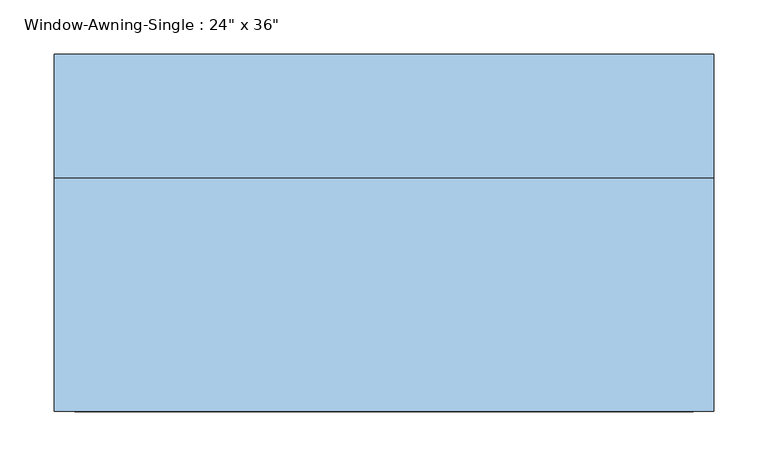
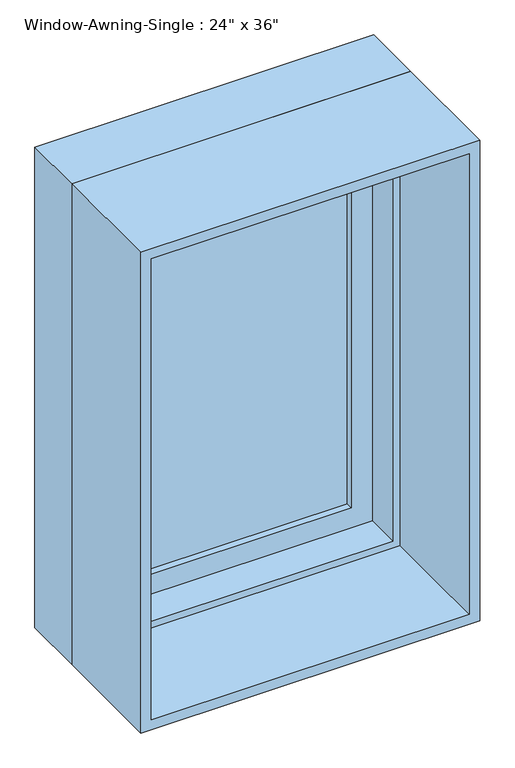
"""IFC4 building model written with IfcOpenShell, lengths in millimetres: window geometry."""

from ifc_helpers import new_model, si_unit, frame, origin, place, context, project, spatial, polyline, outline, extrude, faceted_brep, source, transform, mapped, element, save


def window_2fd3c40a(model_context):
    return source(origin(), model_context, "Body", "SolidModel", [
        faceted_brep([(292.1, 123.825, 927.1), (292.1, 174.625, 927.1), (-292.1, 174.625, 927.1), (-292.1, 123.825, 927.1), (273.05, 60.325, 946.15), (273.05, 123.825, 946.15), (-273.05, 123.825, 946.15), (-273.05, 60.325, 946.15), (304.8, 174.625, 914.4), (304.8, 60.325, 914.4), (-304.8, 60.325, 914.4), (-304.8, 174.625, 914.4), (-292.1, 174.625, 1816.1), (-292.1, 123.825, 1816.1), (-273.05, 123.825, 1797.05), (-273.05, 60.325, 1797.05), (-304.8, 60.325, 1828.8), (-304.8, 174.625, 1828.8), (292.1, 174.625, 1816.1), (292.1, 123.825, 1816.1), (273.05, 123.825, 1797.05), (273.05, 60.325, 1797.05), (304.8, 60.325, 1828.8), (304.8, 174.625, 1828.8)], [[[0, 1, 2, 3]], [[4, 5, 6, 7]], [[8, 9, 10, 11]], [[3, 2, 12, 13]], [[7, 6, 14, 15]], [[11, 10, 16, 17]], [[13, 12, 18, 19]], [[15, 14, 20, 21]], [[17, 16, 22, 23]], [[11, 17, 23, 8], [1, 18, 12, 2]], [[19, 18, 1, 0]], [[3, 13, 19, 0], [5, 20, 14, 6]], [[21, 20, 5, 4]], [[9, 22, 16, 10], [7, 15, 21, 4]], [[23, 22, 9, 8]]]),
        extrude(outline(polyline([(234.95, 155.575), (234.95, 149.225), (-234.95, 149.225), (-234.95, 155.575), (234.95, 155.575)])), frame((0.0, 0.0, 984.25), z_axis=(0.0, 0.0, 1.0), x_axis=(1.0, 0.0, 0.0)), (0.0, 0.0, 1.0), 774.7),
        extrude(outline(polyline([(234.95, 142.875), (234.95, 136.525), (-234.95, 136.525), (-234.95, 142.875), (234.95, 142.875)])), frame((0.0, 0.0, 984.25), z_axis=(0.0, 0.0, 1.0), x_axis=(1.0, 0.0, 0.0)), (0.0, 0.0, 1.0), 774.7),
        extrude(outline(polyline([(927.1, -292.1), (927.1, 292.1), (1816.1, 292.1), (1816.1, -292.1), (927.1, -292.1)]), holes=[polyline([(1758.95, -234.95), (1758.95, 234.95), (984.25, 234.95), (984.25, -234.95), (1758.95, -234.95)])]), frame((0.0, 123.825, 0.0), z_axis=(0.0, 1.0, 0.0), x_axis=(0.0, 0.0, 1.0)), (0.0, 0.0, 1.0), 44.45),
        extrude(outline(polyline([(1828.8, -304.8), (914.4, -304.8), (914.4, 304.8), (1828.8, 304.8), (1828.8, -304.8)]), holes=[polyline([(1809.75, -285.75), (1809.75, 285.75), (933.45, 285.75), (933.45, -285.75), (1809.75, -285.75)])]), frame((0.0, -155.575, 0.0), z_axis=(0.0, 1.0, 0.0), x_axis=(0.0, 0.0, 1.0)), (0.0, 0.0, 1.0), 215.9),
    ])


if __name__ == "__main__":
    model = new_model("IFC4")
    model_context = context("Model", 3, world=origin())
    ifc_project = project(units=[si_unit("LENGTHUNIT", "METRE", prefix="MILLI")], contexts=[model_context])
    site = spatial("IfcSite", under=ifc_project)
    building = spatial("IfcBuilding", under=site)
    placement = place(None, origin())
    window_shape = window_2fd3c40a(model_context)
    element("IfcWindow", 1, ObjectType="Window-Awning-Single : 24\" x 36\"", at=placement, inside=building, context=model_context, shape_type="MappedRepresentation", body=[
        mapped(window_shape, transform((0.0, 0.0, 0.0), x_axis=(1.0, 0.0, 0.0), y_axis=(0.0, 1.0, 0.0), z_axis=(0.0, 0.0, 1.0))),
    ])
    save(model, "model.ifc")
